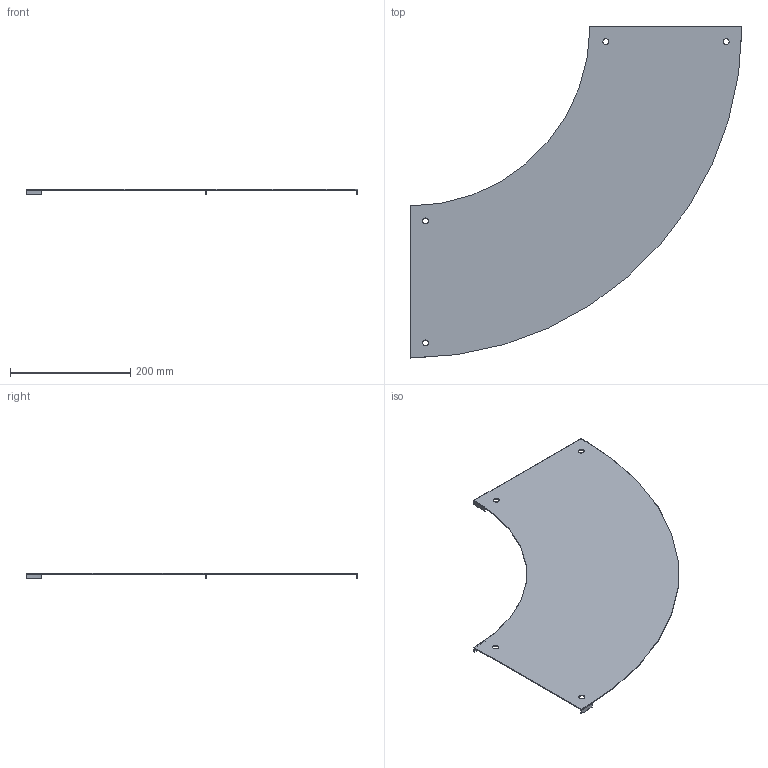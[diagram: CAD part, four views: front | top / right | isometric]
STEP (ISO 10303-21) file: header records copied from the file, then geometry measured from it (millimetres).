
FILE_DESCRIPTION(/* description */ ('','CAx-IF Rec.Pracs.---Representation and Presentation of Product Manufacturing Information (PMI)---4.0---2014-10-13'),/* implementation_level */ '2;1');
FILE_NAME(/* name */ 'Eurostrut_EFBC200-90-300_Cover Bend 90 for Cable Ladder ECL.step',/* time_stamp */ '2026-09-10T08:49:35+02:00',/* author */ (''),/* organization */ (''),/* preprocessor_version */ 'ST-DEVELOPER v20.1',/* originating_system */ 'Autodesk Revit 2027 27.2.0.39',/* authorisation */ '');
FILE_SCHEMA (('AP242_MANAGED_MODEL_BASED_3D_ENGINEERING_MIM_LF { 1 0 10303 442 2 1 4 }'));
Length unit declared in the file: millimetre
Products named in the file (5): TopLevelAssembly; Sweep; Sweep_1; Joined Solid Geometry; Joined Solid Geometry_1
Assembly tree (4 placements, depth 2):
  TopLevelAssembly
    Sweep
    Sweep_1
    Joined Solid Geometry
    Joined Solid Geometry_1
Bounding box: 552.5 x 552.5 x 9 mm (x, y, z)
Volume: 254808.4 mm3; surface area: 343193.2 mm2
Topology: 9 solids, 9 shells, 66 faces, 144 edges, 96 vertices
Faces by surface type: plane 48, cylinder 18
Entity records: 1904 total; most frequent: DIRECTION 330, CARTESIAN_POINT 315, ORIENTED_EDGE 288, EDGE_CURVE 144, AXIS2_PLACEMENT_3D 111, LINE 108, VECTOR 108, VERTEX_POINT 96
